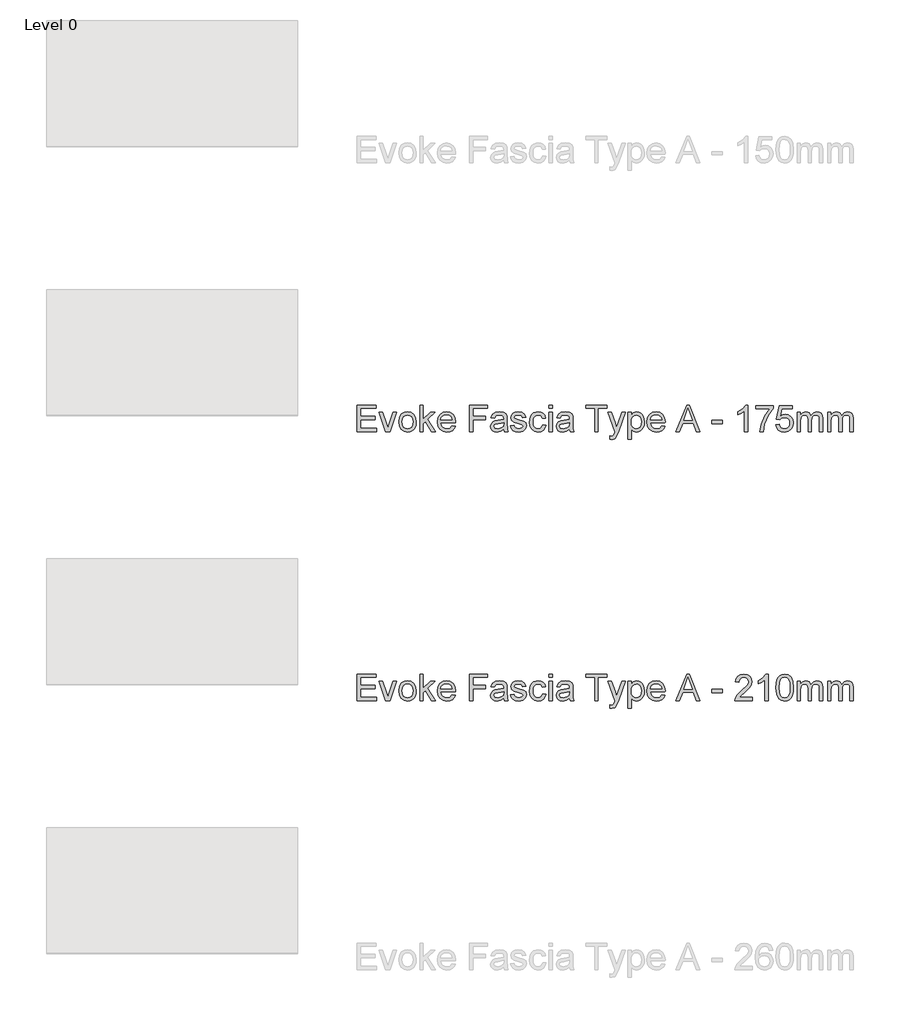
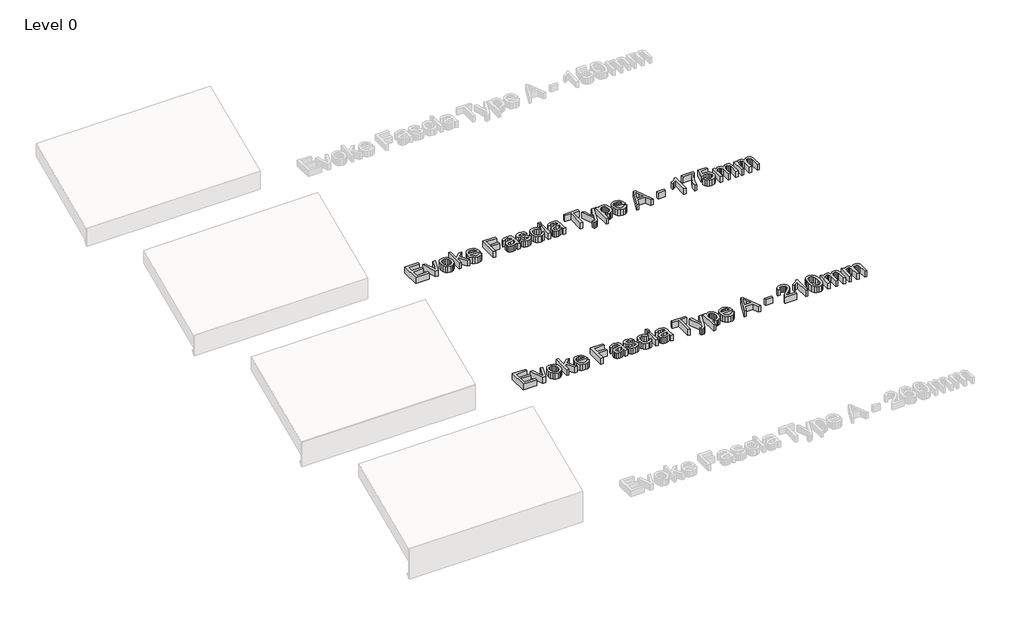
# One storey, part 6 of 13: 2 proxies.
"""IFC4 building model written with IfcOpenShell, lengths in millimetres."""

from ifc_helpers import new_model, si_unit, origin, origin_with_axes, place, context, project, spatial, polyline, outline, extrude, element, save

model = new_model("IFC4")

# Units and contexts
model_context = context("Model", 3, world=origin())
ifc_project = project(units=[si_unit("LENGTHUNIT", "METRE", prefix="MILLI")], contexts=[model_context])

# Site, building, storey
site = spatial("IfcSite", under=ifc_project)
building = spatial("IfcBuilding", under=site)
storey = spatial("IfcBuildingStorey", under=building, Name="Level 0", Elevation=0.0)

# Proxies
placement = place(None, origin())
element("IfcBuildingElementProxy", 1, Name="150mm Arial", ObjectType="150mm Arial", at=placement, inside=storey, context=model_context, shape_type="SweptSolid", body=[
    extrude(outline(polyline([(-1431.2798957, 5860.6682311), (-1431.2798957, 6008.3605388), (-1325.1260496, 6008.3605388), (-1325.1260496, 5989.8990003), (-1412.8183573, 5989.8990003), (-1412.8183573, 5946.0528465), (-1329.7414342, 5946.0528465), (-1329.7414342, 5927.591308), (-1412.8183573, 5927.591308), (-1412.8183573, 5879.1297695), (-1322.8183573, 5879.1297695), (-1322.8183573, 5860.6682311), (-1431.2798957, 5860.6682311)])), origin_with_axes(), (0.0, 0.0, 1.0), 50.0),
    extrude(outline(polyline([(-1270.823165, 5860.6682311), (-1308.9722034, 5969.1297695), (-1289.4289342, 5969.1297695), (-1266.3159534, 5904.153808), (-1259.3568188, 5882.3028465), (-1252.541915, 5902.9278465), (-1229.2847034, 5969.1297695), (-1209.7414342, 5969.1297695), (-1247.4217226, 5860.6682311), (-1270.823165, 5860.6682311)])), origin_with_axes(), (0.0, 0.0, 1.0), 50.0),
    extrude(outline(polyline([(-1198.2029726, 5914.8990003), (-1194.2095832, 5941.0498416), (-1182.229415, 5959.4302503), (-1167.4277323, 5968.435659), (-1149.7053765, 5971.4374618), (-1130.3108452, 5967.7821133), (-1114.8195592, 5956.8160676), (-1104.6648116, 5939.4047094), (-1101.2798957, 5916.4134234), (-1102.77629, 5897.762582), (-1107.2654726, 5883.5648657), (-1114.6167347, 5872.9323537), (-1124.6993669, 5864.9771253), (-1136.6750279, 5860.0146854), (-1149.7053765, 5858.3605388), (-1169.3342827, 5862.0023657), (-1184.80754, 5872.9278465), (-1194.8541145, 5890.7042888), (-1198.2029726, 5914.8990003)]), holes=[polyline([(-1179.7414342, 5914.935058), (-1177.6050159, 5898.2268248), (-1171.1957611, 5886.3232791), (-1161.5503284, 5879.1973777), (-1149.7053765, 5876.8220772), (-1137.9145111, 5879.2108993), (-1128.2871073, 5886.3773657), (-1121.8778525, 5898.4386638), (-1119.7414342, 5915.5119811), (-1121.8913741, 5931.7334354), (-1128.3411938, 5943.4747215), (-1137.9821193, 5950.6006229), (-1149.7053765, 5952.9759234), (-1161.5503284, 5950.6096373), (-1171.1957611, 5943.5107791), (-1177.6050159, 5931.6342767), (-1179.7414342, 5914.935058)])]), origin_with_axes(), (0.0, 0.0, 1.0), 50.0),
    extrude(outline(polyline([(-1080.510665, 5860.6682311), (-1080.510665, 6008.3605388), (-1062.0491265, 6008.3605388), (-1062.0491265, 5928.997558), (-1020.6548957, 5969.1297695), (-995.1260496, 5969.1297695), (-1037.025088, 5928.4927503), (-992.8183573, 5860.6682311), (-1014.3808573, 5860.6682311), (-1050.2582611, 5915.6562118), (-1062.0491265, 5904.2259234), (-1062.0491265, 5860.6682311), (-1080.510665, 5860.6682311)])), origin_with_axes(), (0.0, 0.0, 1.0), 50.0),
    extrude(outline(polyline([(-900.7270111, 5892.9759234), (-882.6260496, 5890.6682311), (-889.1479847, 5877.029409), (-899.5551361, 5866.8340965), (-913.6131289, 5860.4789282), (-931.087588, 5858.3605388), (-952.7492467, 5862.0158873), (-969.416915, 5872.981933), (-980.0449198, 5890.5465364), (-983.587588, 5913.997558), (-980.0088621, 5938.2373416), (-969.2726842, 5956.3653465), (-952.8303765, 5967.669433), (-932.1332611, 5971.4374618), (-912.080677, 5967.6784474), (-896.05754, 5956.4014041), (-885.5512299, 5938.309457), (-882.0491265, 5914.1057311), (-882.1572996, 5909.1297695), (-965.1260496, 5909.1297695), (-961.9304366, 5895.310659), (-954.5070592, 5885.1514041), (-943.7934174, 5878.904409), (-930.7270111, 5876.8220772), (-912.6260496, 5880.6802503), (-900.7270111, 5892.9759234)]), holes=[polyline([(-965.1260496, 5927.591308), (-900.510665, 5927.591308), (-903.0076601, 5937.3449138), (-907.9024919, 5944.3220772), (-918.665713, 5950.8124618), (-932.2053765, 5952.9759234), (-944.6497876, 5951.2496614), (-954.9397515, 5946.0708753), (-962.0926962, 5937.9984594), (-965.1260496, 5927.591308)])]), origin_with_axes(), (0.0, 0.0, 1.0), 50.0),
    extrude(outline(polyline([(-803.587588, 5860.6682311), (-803.587588, 6008.3605388), (-704.3568188, 6008.3605388), (-704.3568188, 5989.8990003), (-785.1260496, 5989.8990003), (-785.1260496, 5946.0528465), (-715.8952803, 5946.0528465), (-715.8952803, 5927.591308), (-785.1260496, 5927.591308), (-785.1260496, 5860.6682311), (-803.587588, 5860.6682311)])), origin_with_axes(), (0.0, 0.0, 1.0), 50.0),
    extrude(outline(polyline([(-612.0491265, 5874.5143849), (-629.9517707, 5862.0023657), (-649.729415, 5858.3605388), (-665.1576001, 5860.5510436), (-676.5383092, 5867.122558), (-683.5560376, 5877.1015243), (-685.8952803, 5889.5143849), (-682.3616265, 5904.1177503), (-673.0767707, 5914.7187118), (-660.150088, 5920.7764041), (-644.1765303, 5923.5528465), (-612.1572996, 5929.8990003), (-612.0491265, 5934.0095772), (-613.3201601, 5942.2487599), (-617.1332611, 5947.6393849), (-625.6609053, 5951.6417888), (-637.541915, 5952.9759234), (-656.2197996, 5949.4242407), (-665.1260496, 5936.8220772), (-683.587588, 5939.1297695), (-675.6008092, 5957.1586157), (-659.5190784, 5967.7235195), (-635.1621073, 5971.4374618), (-612.7883092, 5968.1562118), (-600.150088, 5959.9170291), (-594.4890303, 5947.3869811), (-593.587588, 5931.2331349), (-593.587588, 5908.2643849), (-592.650088, 5876.1910676), (-588.9722034, 5860.6682311), (-607.4337419, 5860.6682311), (-612.0491265, 5874.5143849)]), holes=[polyline([(-612.0491265, 5911.4374618), (-641.8327803, 5905.7764041), (-657.7161938, 5902.7836157), (-664.9097034, 5897.9158272), (-667.4337419, 5890.8124618), (-661.9349438, 5880.8244811), (-645.7991265, 5876.8220772), (-627.1212419, 5881.2391445), (-615.0779726, 5891.9302503), (-612.1572996, 5906.2090965), (-612.0491265, 5911.4374618)])]), origin_with_axes(), (0.0, 0.0, 1.0), 50.0),
    extrude(outline(polyline([(-575.1260496, 5892.9759234), (-556.6645111, 5895.2836157), (-553.7528525, 5887.3869811), (-548.118838, 5881.5816926), (-528.5395111, 5876.8220772), (-509.7173957, 5881.185058), (-503.587588, 5891.4254426), (-509.7534534, 5899.7187118), (-528.7558573, 5904.9831349), (-556.556338, 5914.0155868), (-568.6897515, 5924.5624618), (-572.8183573, 5939.4542888), (-569.5010496, 5953.2102984), (-560.4505688, 5963.7211157), (-548.71379, 5969.1838561), (-532.8303765, 5971.4374618), (-510.3664342, 5967.8136638), (-496.087588, 5958.0059715), (-489.7414342, 5941.4374618), (-508.2029726, 5939.1297695), (-515.1440784, 5949.3160676), (-531.3880688, 5952.9759234), (-549.056338, 5949.4783272), (-554.3568188, 5941.3292888), (-552.1572996, 5935.9566926), (-545.2702803, 5931.8821734), (-529.368838, 5927.9518849), (-502.2714823, 5919.2619811), (-489.6873476, 5909.4182311), (-485.1260496, 5893.372558), (-490.4806169, 5875.7042888), (-505.931338, 5862.8857791), (-528.791915, 5858.3605388), (-547.4066986, 5860.5420291), (-560.9914342, 5867.0865003), (-570.0599438, 5877.9218368), (-575.1260496, 5892.9759234)])), origin_with_axes(), (0.0, 0.0, 1.0), 50.0),
    extrude(outline(polyline([(-395.1260496, 5899.8990003), (-376.6645111, 5897.591308), (-381.8117467, 5881.1715364), (-391.4842226, 5868.763183), (-404.7714823, 5860.9611998), (-420.7630688, 5858.3605388), (-440.4009895, 5861.9888441), (-455.7570592, 5872.8737599), (-465.6684174, 5890.5375219), (-468.9722034, 5914.5023657), (-463.3291746, 5945.169433), (-456.2077803, 5956.6673296), (-446.1296553, 5964.8749618), (-434.0728645, 5969.7968368), (-421.0154726, 5971.4374618), (-405.4160135, 5969.1838561), (-392.9445592, 5962.4230388), (-383.9977443, 5951.5155868), (-378.9722034, 5936.8220772), (-397.4337419, 5934.5143849), (-405.9974438, 5948.3425099), (-420.8712419, 5952.9759234), (-432.8018308, 5950.6952743), (-442.2714823, 5943.8533272), (-448.4508693, 5932.0804907), (-450.510665, 5915.0071734), (-448.4959414, 5897.7039883), (-442.4517707, 5885.8905868), (-433.1533933, 5879.0892046), (-421.3760496, 5876.8220772), (-411.8162539, 5878.2373416), (-403.978213, 5882.4831349), (-398.2765904, 5889.6676301), (-395.1260496, 5899.8990003)])), origin_with_axes(), (0.0, 0.0, 1.0), 50.0),
    extrude(outline(polyline([(-360.510665, 5989.8990003), (-360.510665, 6008.3605388), (-342.0491265, 6008.3605388), (-342.0491265, 5989.8990003), (-360.510665, 5989.8990003)])), origin_with_axes(), (0.0, 0.0, 1.0), 50.0),
    extrude(outline(polyline([(-360.510665, 5860.6682311), (-360.510665, 5969.1297695), (-342.0491265, 5969.1297695), (-342.0491265, 5860.6682311), (-360.510665, 5860.6682311)])), origin_with_axes(), (0.0, 0.0, 1.0), 50.0),
    extrude(outline(polyline([(-245.1260496, 5874.5143849), (-263.0286938, 5862.0023657), (-282.806338, 5858.3605388), (-298.2345231, 5860.5510436), (-309.6152323, 5867.122558), (-316.6329606, 5877.1015243), (-318.9722034, 5889.5143849), (-315.4385496, 5904.1177503), (-306.1536938, 5914.7187118), (-293.2270111, 5920.7764041), (-277.2534534, 5923.5528465), (-245.2342226, 5929.8990003), (-245.1260496, 5934.0095772), (-246.3970832, 5942.2487599), (-250.2101842, 5947.6393849), (-258.7378284, 5951.6417888), (-270.618838, 5952.9759234), (-289.2967226, 5949.4242407), (-298.2029726, 5936.8220772), (-316.6645111, 5939.1297695), (-308.6777323, 5957.1586157), (-292.5960015, 5967.7235195), (-268.2390303, 5971.4374618), (-245.8652323, 5968.1562118), (-233.2270111, 5959.9170291), (-227.5659534, 5947.3869811), (-226.6645111, 5931.2331349), (-226.6645111, 5908.2643849), (-225.7270111, 5876.1910676), (-222.0491265, 5860.6682311), (-240.510665, 5860.6682311), (-245.1260496, 5874.5143849)]), holes=[polyline([(-245.1260496, 5911.4374618), (-274.9097034, 5905.7764041), (-290.7931169, 5902.7836157), (-297.9866265, 5897.9158272), (-300.510665, 5890.8124618), (-295.0118669, 5880.8244811), (-278.8760496, 5876.8220772), (-260.198165, 5881.2391445), (-248.1548957, 5891.9302503), (-245.2342226, 5906.2090965), (-245.1260496, 5911.4374618)])]), origin_with_axes(), (0.0, 0.0, 1.0), 50.0),
    extrude(outline(polyline([(-104.3568188, 5860.6682311), (-104.3568188, 5989.8990003), (-152.8183573, 5989.8990003), (-152.8183573, 6008.3605388), (-37.4337419, 6008.3605388), (-37.4337419, 5989.8990003), (-85.8952803, 5989.8990003), (-85.8952803, 5860.6682311), (-104.3568188, 5860.6682311)])), origin_with_axes(), (0.0, 0.0, 1.0), 50.0),
    extrude(outline(polyline([(-18.9722034, 5819.1297695), (-21.2798957, 5836.9062118), (-11.9048957, 5835.2836157), (-3.1428765, 5837.3208753), (2.2297197, 5842.9999618), (7.2777966, 5856.5937118), (8.7201043, 5861.0648657), (-30.510665, 5969.1297695), (-11.0395111, 5969.1297695), (9.7657774, 5908.9134234), (17.0133735, 5884.8268849), (24.2609697, 5906.1009234), (45.6431812, 5969.1297695), (64.9701043, 5969.1297695), (27.2177004, 5858.0720772), (17.4100081, 5833.9855388), (6.7008735, 5820.9687118), (-7.6861457, 5816.8220772), (-18.9722034, 5819.1297695)])), origin_with_axes(), (0.0, 0.0, 1.0), 50.0),
    extrude(outline(polyline([(80.2585658, 5819.1297695), (80.2585658, 5969.1297695), (98.7201043, 5969.1297695), (98.7201043, 5951.028808), (111.4845274, 5966.3352984), (128.7201043, 5971.4374618), (141.2050802, 5969.6526061), (152.1215466, 5964.2980388), (161.0097677, 5955.6982791), (167.4100081, 5944.1778465), (172.5662581, 5915.7283272), (171.1104288, 5899.9395652), (166.7429408, 5885.8184715), (159.6035177, 5874.0816926), (149.8318831, 5865.4458753), (138.451174, 5860.1318729), (126.4845274, 5858.3605388), (110.4208254, 5863.1021253), (98.7201043, 5875.091308), (98.7201043, 5819.1297695), (80.2585658, 5819.1297695)]), holes=[polyline([(98.7201043, 5914.0336157), (100.716799, 5897.4831349), (106.7068831, 5885.9086157), (115.5455249, 5879.0937118), (126.0878927, 5876.8220772), (136.8015346, 5879.1748416), (145.865537, 5886.2331349), (152.044924, 5898.231332), (154.1047197, 5915.403808), (152.0945033, 5931.8641445), (146.0638543, 5943.6009234), (137.2387341, 5950.6321734), (126.8451043, 5952.9759234), (116.4109096, 5950.4834354), (107.2477485, 5943.0059715), (100.8520153, 5930.7779066), (98.7201043, 5914.0336157)])]), origin_with_axes(), (0.0, 0.0, 1.0), 50.0),
    extrude(outline(polyline([(269.2729889, 5892.9759234), (287.3739504, 5890.6682311), (280.8520153, 5877.029409), (270.4448639, 5866.8340965), (256.3868711, 5860.4789282), (238.912412, 5858.3605388), (217.2507533, 5862.0158873), (200.583085, 5872.981933), (189.9550802, 5890.5465364), (186.412412, 5913.997558), (189.9911379, 5938.2373416), (200.7273158, 5956.3653465), (217.1696235, 5967.669433), (237.8667389, 5971.4374618), (257.919323, 5967.6784474), (273.94246, 5956.4014041), (284.4487701, 5938.309457), (287.9508735, 5914.1057311), (287.8427004, 5909.1297695), (204.8739504, 5909.1297695), (208.0695634, 5895.310659), (215.4929408, 5885.1514041), (226.2065826, 5878.904409), (239.2729889, 5876.8220772), (257.3739504, 5880.6802503), (269.2729889, 5892.9759234)]), holes=[polyline([(204.8739504, 5927.591308), (269.489335, 5927.591308), (266.9923399, 5937.3449138), (262.0975081, 5944.3220772), (251.334287, 5950.8124618), (237.7946235, 5952.9759234), (225.3502124, 5951.2496614), (215.0602485, 5946.0708753), (207.9073038, 5937.9984594), (204.8739504, 5927.591308)])]), origin_with_axes(), (0.0, 0.0, 1.0), 50.0),
    extrude(outline(polyline([(349.2128927, 5860.6682311), (408.1672197, 6008.3605388), (423.8883735, 6008.3605388), (482.8427004, 5860.6682311), (463.3354889, 5860.6682311), (446.4244312, 5906.8220772), (385.5951043, 5906.8220772), (368.7201043, 5860.6682311), (349.2128927, 5860.6682311)]), holes=[polyline([(392.3739504, 5925.2836157), (439.6816427, 5925.2836157), (426.3763543, 5961.5937118), (416.0277966, 5989.8990003), (406.833085, 5964.7667888), (392.3739504, 5925.2836157)])]), origin_with_axes(), (0.0, 0.0, 1.0), 50.0),
    extrude(outline(polyline([(548.7201043, 5904.5143849), (548.7201043, 5922.9759234), (606.412412, 5922.9759234), (606.412412, 5904.5143849), (548.7201043, 5904.5143849)])), origin_with_axes(), (0.0, 0.0, 1.0), 50.0),
    extrude(outline(polyline([(749.489335, 5860.6682311), (731.0277966, 5860.6682311), (731.0277966, 5975.7643849), (713.5398158, 5963.3064522), (694.1047197, 5953.9855388), (694.1047197, 5971.4374618), (721.1660177, 5988.7090965), (737.5902966, 6008.3605388), (749.489335, 6008.3605388), (749.489335, 5860.6682311)])), origin_with_axes(), (0.0, 0.0, 1.0), 50.0),
    extrude(outline(polyline([(793.3354889, 5987.591308), (793.3354889, 6006.0528465), (890.2585658, 6006.0528465), (890.2585658, 5991.1249618), (862.7645754, 5951.4074138), (841.724912, 5900.8004426), (834.8739504, 5860.6682311), (816.412412, 5860.6682311), (823.7501524, 5902.3148657), (843.8883735, 5949.388183), (871.7970274, 5987.591308), (793.3354889, 5987.591308)])), origin_with_axes(), (0.0, 0.0, 1.0), 50.0),
    extrude(outline(polyline([(906.412412, 5899.8990003), (924.8739504, 5902.2066926), (928.2633735, 5891.1234594), (934.176835, 5883.1862599), (942.5872918, 5878.4131229), (953.4677004, 5876.8220772), (966.7008735, 5879.0351181), (976.6167389, 5885.6742407), (982.8096475, 5895.9732191), (984.8739504, 5909.1658272), (982.9403567, 5921.5877022), (977.1395754, 5931.0889041), (967.4265346, 5937.1195532), (953.756162, 5939.1297695), (937.5482293, 5935.9206349), (927.1816427, 5927.591308), (908.7201043, 5929.8990003), (924.8739504, 6006.0528465), (996.412412, 6006.0528465), (996.412412, 5987.591308), (939.801835, 5987.591308), (931.9052004, 5946.9182311), (945.0933014, 5954.9230388), (958.912412, 5957.591308), (976.1615105, 5954.2830147), (990.4809216, 5944.3581349), (1000.1218471, 5929.231933), (1003.3354889, 5910.3196734), (1000.4418591, 5891.8581349), (991.7609697, 5876.0648657), (975.1383735, 5862.7866205), (953.395585, 5858.3605388), (935.263073, 5861.2045892), (920.81746, 5869.7367407), (910.9151163, 5882.9654066), (906.412412, 5899.8990003)])), origin_with_axes(), (0.0, 0.0, 1.0), 50.0),
    extrude(outline(polyline([(1024.1047197, 5860.6682311), (1024.1047197, 5969.1297695), (1042.5662581, 5969.1297695), (1042.5662581, 5951.2812118), (1055.2585658, 5965.9026061), (1073.3234697, 5971.4374618), (1083.5908975, 5970.0267046), (1091.8210658, 5965.794433), (1101.989335, 5949.9831349), (1116.3943831, 5966.0738801), (1134.5854889, 5971.4374618), (1148.4631932, 5969.2063921), (1158.7261139, 5962.513183), (1165.0677605, 5951.177546), (1167.1816427, 5935.0191926), (1167.1816427, 5860.6682311), (1148.7201043, 5860.6682311), (1148.7201043, 5927.0865003), (1147.0073639, 5942.5011638), (1140.8054408, 5950.091308), (1130.2585658, 5952.9759234), (1120.2570634, 5951.1279666), (1112.1035177, 5945.5840965), (1106.6813423, 5935.965707), (1104.8739504, 5921.8941926), (1104.8739504, 5860.6682311), (1086.412412, 5860.6682311), (1086.412412, 5929.1417888), (1082.1395754, 5947.0264041), (1076.5010538, 5951.4885436), (1068.131162, 5952.9759234), (1054.4652966, 5949.0095772), (1045.3787581, 5937.3990003), (1042.5662581, 5915.3677503), (1042.5662581, 5860.6682311), (1024.1047197, 5860.6682311)])), origin_with_axes(), (0.0, 0.0, 1.0), 50.0),
    extrude(outline(polyline([(1194.8739504, 5860.6682311), (1194.8739504, 5969.1297695), (1213.3354889, 5969.1297695), (1213.3354889, 5951.2812118), (1226.0277966, 5965.9026061), (1244.0927004, 5971.4374618), (1254.3601283, 5970.0267046), (1262.5902966, 5965.794433), (1272.7585658, 5949.9831349), (1287.1636139, 5966.0738801), (1305.3547197, 5971.4374618), (1319.232424, 5969.2063921), (1329.4953447, 5962.513183), (1335.8369913, 5951.177546), (1337.9508735, 5935.0191926), (1337.9508735, 5860.6682311), (1319.489335, 5860.6682311), (1319.489335, 5927.0865003), (1317.7765947, 5942.5011638), (1311.5746716, 5950.091308), (1301.0277966, 5952.9759234), (1291.0262942, 5951.1279666), (1282.8727485, 5945.5840965), (1277.450573, 5935.965707), (1275.6431812, 5921.8941926), (1275.6431812, 5860.6682311), (1257.1816427, 5860.6682311), (1257.1816427, 5929.1417888), (1252.9088062, 5947.0264041), (1247.2702846, 5951.4885436), (1238.9003927, 5952.9759234), (1225.2345274, 5949.0095772), (1216.1479889, 5937.3990003), (1213.3354889, 5915.3677503), (1213.3354889, 5860.6682311), (1194.8739504, 5860.6682311)])), origin_with_axes(), (0.0, 0.0, 1.0), 50.0),
])
element("IfcBuildingElementProxy", 2, Name="150mm Arial", ObjectType="150mm Arial", at=placement, inside=storey, context=model_context, shape_type="SweptSolid", body=[
    extrude(outline(polyline([(-1431.2798957, 4360.6682311), (-1431.2798957, 4508.3605388), (-1325.1260496, 4508.3605388), (-1325.1260496, 4489.8990003), (-1412.8183573, 4489.8990003), (-1412.8183573, 4446.0528465), (-1329.7414342, 4446.0528465), (-1329.7414342, 4427.591308), (-1412.8183573, 4427.591308), (-1412.8183573, 4379.1297695), (-1322.8183573, 4379.1297695), (-1322.8183573, 4360.6682311), (-1431.2798957, 4360.6682311)])), origin_with_axes(), (0.0, 0.0, 1.0), 50.0),
    extrude(outline(polyline([(-1270.823165, 4360.6682311), (-1308.9722034, 4469.1297695), (-1289.4289342, 4469.1297695), (-1266.3159534, 4404.153808), (-1259.3568188, 4382.3028465), (-1252.541915, 4402.9278465), (-1229.2847034, 4469.1297695), (-1209.7414342, 4469.1297695), (-1247.4217226, 4360.6682311), (-1270.823165, 4360.6682311)])), origin_with_axes(), (0.0, 0.0, 1.0), 50.0),
    extrude(outline(polyline([(-1198.2029726, 4414.8990003), (-1194.2095832, 4441.0498416), (-1182.229415, 4459.4302503), (-1167.4277323, 4468.435659), (-1149.7053765, 4471.4374618), (-1130.3108452, 4467.7821133), (-1114.8195592, 4456.8160676), (-1104.6648116, 4439.4047094), (-1101.2798957, 4416.4134234), (-1102.77629, 4397.762582), (-1107.2654726, 4383.5648657), (-1114.6167347, 4372.9323537), (-1124.6993669, 4364.9771253), (-1136.6750279, 4360.0146854), (-1149.7053765, 4358.3605388), (-1169.3342827, 4362.0023657), (-1184.80754, 4372.9278465), (-1194.8541145, 4390.7042888), (-1198.2029726, 4414.8990003)]), holes=[polyline([(-1179.7414342, 4414.935058), (-1177.6050159, 4398.2268248), (-1171.1957611, 4386.3232791), (-1161.5503284, 4379.1973777), (-1149.7053765, 4376.8220772), (-1137.9145111, 4379.2108993), (-1128.2871073, 4386.3773657), (-1121.8778525, 4398.4386638), (-1119.7414342, 4415.5119811), (-1121.8913741, 4431.7334354), (-1128.3411938, 4443.4747215), (-1137.9821193, 4450.6006229), (-1149.7053765, 4452.9759234), (-1161.5503284, 4450.6096373), (-1171.1957611, 4443.5107791), (-1177.6050159, 4431.6342767), (-1179.7414342, 4414.935058)])]), origin_with_axes(), (0.0, 0.0, 1.0), 50.0),
    extrude(outline(polyline([(-1080.510665, 4360.6682311), (-1080.510665, 4508.3605388), (-1062.0491265, 4508.3605388), (-1062.0491265, 4428.997558), (-1020.6548957, 4469.1297695), (-995.1260496, 4469.1297695), (-1037.025088, 4428.4927503), (-992.8183573, 4360.6682311), (-1014.3808573, 4360.6682311), (-1050.2582611, 4415.6562118), (-1062.0491265, 4404.2259234), (-1062.0491265, 4360.6682311), (-1080.510665, 4360.6682311)])), origin_with_axes(), (0.0, 0.0, 1.0), 50.0),
    extrude(outline(polyline([(-900.7270111, 4392.9759234), (-882.6260496, 4390.6682311), (-889.1479847, 4377.029409), (-899.5551361, 4366.8340965), (-913.6131289, 4360.4789282), (-931.087588, 4358.3605388), (-952.7492467, 4362.0158873), (-969.416915, 4372.981933), (-980.0449198, 4390.5465364), (-983.587588, 4413.997558), (-980.0088621, 4438.2373416), (-969.2726842, 4456.3653465), (-952.8303765, 4467.669433), (-932.1332611, 4471.4374618), (-912.080677, 4467.6784474), (-896.05754, 4456.4014041), (-885.5512299, 4438.309457), (-882.0491265, 4414.1057311), (-882.1572996, 4409.1297695), (-965.1260496, 4409.1297695), (-961.9304366, 4395.310659), (-954.5070592, 4385.1514041), (-943.7934174, 4378.904409), (-930.7270111, 4376.8220772), (-912.6260496, 4380.6802503), (-900.7270111, 4392.9759234)]), holes=[polyline([(-965.1260496, 4427.591308), (-900.510665, 4427.591308), (-903.0076601, 4437.3449138), (-907.9024919, 4444.3220772), (-918.665713, 4450.8124618), (-932.2053765, 4452.9759234), (-944.6497876, 4451.2496614), (-954.9397515, 4446.0708753), (-962.0926962, 4437.9984594), (-965.1260496, 4427.591308)])]), origin_with_axes(), (0.0, 0.0, 1.0), 50.0),
    extrude(outline(polyline([(-803.587588, 4360.6682311), (-803.587588, 4508.3605388), (-704.3568188, 4508.3605388), (-704.3568188, 4489.8990003), (-785.1260496, 4489.8990003), (-785.1260496, 4446.0528465), (-715.8952803, 4446.0528465), (-715.8952803, 4427.591308), (-785.1260496, 4427.591308), (-785.1260496, 4360.6682311), (-803.587588, 4360.6682311)])), origin_with_axes(), (0.0, 0.0, 1.0), 50.0),
    extrude(outline(polyline([(-612.0491265, 4374.5143849), (-629.9517707, 4362.0023657), (-649.729415, 4358.3605388), (-665.1576001, 4360.5510436), (-676.5383092, 4367.122558), (-683.5560376, 4377.1015243), (-685.8952803, 4389.5143849), (-682.3616265, 4404.1177503), (-673.0767707, 4414.7187118), (-660.150088, 4420.7764041), (-644.1765303, 4423.5528465), (-612.1572996, 4429.8990003), (-612.0491265, 4434.0095772), (-613.3201601, 4442.2487599), (-617.1332611, 4447.6393849), (-625.6609053, 4451.6417888), (-637.541915, 4452.9759234), (-656.2197996, 4449.4242407), (-665.1260496, 4436.8220772), (-683.587588, 4439.1297695), (-675.6008092, 4457.1586157), (-659.5190784, 4467.7235195), (-635.1621073, 4471.4374618), (-612.7883092, 4468.1562118), (-600.150088, 4459.9170291), (-594.4890303, 4447.3869811), (-593.587588, 4431.2331349), (-593.587588, 4408.2643849), (-592.650088, 4376.1910676), (-588.9722034, 4360.6682311), (-607.4337419, 4360.6682311), (-612.0491265, 4374.5143849)]), holes=[polyline([(-612.0491265, 4411.4374618), (-641.8327803, 4405.7764041), (-657.7161938, 4402.7836157), (-664.9097034, 4397.9158272), (-667.4337419, 4390.8124618), (-661.9349438, 4380.8244811), (-645.7991265, 4376.8220772), (-627.1212419, 4381.2391445), (-615.0779726, 4391.9302503), (-612.1572996, 4406.2090965), (-612.0491265, 4411.4374618)])]), origin_with_axes(), (0.0, 0.0, 1.0), 50.0),
    extrude(outline(polyline([(-575.1260496, 4392.9759234), (-556.6645111, 4395.2836157), (-553.7528525, 4387.3869811), (-548.118838, 4381.5816926), (-528.5395111, 4376.8220772), (-509.7173957, 4381.185058), (-503.587588, 4391.4254426), (-509.7534534, 4399.7187118), (-528.7558573, 4404.9831349), (-556.556338, 4414.0155868), (-568.6897515, 4424.5624618), (-572.8183573, 4439.4542888), (-569.5010496, 4453.2102984), (-560.4505688, 4463.7211157), (-548.71379, 4469.1838561), (-532.8303765, 4471.4374618), (-510.3664342, 4467.8136638), (-496.087588, 4458.0059715), (-489.7414342, 4441.4374618), (-508.2029726, 4439.1297695), (-515.1440784, 4449.3160676), (-531.3880688, 4452.9759234), (-549.056338, 4449.4783272), (-554.3568188, 4441.3292888), (-552.1572996, 4435.9566926), (-545.2702803, 4431.8821734), (-529.368838, 4427.9518849), (-502.2714823, 4419.2619811), (-489.6873476, 4409.4182311), (-485.1260496, 4393.372558), (-490.4806169, 4375.7042888), (-505.931338, 4362.8857791), (-528.791915, 4358.3605388), (-547.4066986, 4360.5420291), (-560.9914342, 4367.0865003), (-570.0599438, 4377.9218368), (-575.1260496, 4392.9759234)])), origin_with_axes(), (0.0, 0.0, 1.0), 50.0),
    extrude(outline(polyline([(-395.1260496, 4399.8990003), (-376.6645111, 4397.591308), (-381.8117467, 4381.1715364), (-391.4842226, 4368.763183), (-404.7714823, 4360.9611998), (-420.7630688, 4358.3605388), (-440.4009895, 4361.9888441), (-455.7570592, 4372.8737599), (-465.6684174, 4390.5375219), (-468.9722034, 4414.5023657), (-463.3291746, 4445.169433), (-456.2077803, 4456.6673296), (-446.1296553, 4464.8749618), (-434.0728645, 4469.7968368), (-421.0154726, 4471.4374618), (-405.4160135, 4469.1838561), (-392.9445592, 4462.4230388), (-383.9977443, 4451.5155868), (-378.9722034, 4436.8220772), (-397.4337419, 4434.5143849), (-405.9974438, 4448.3425099), (-420.8712419, 4452.9759234), (-432.8018308, 4450.6952743), (-442.2714823, 4443.8533272), (-448.4508693, 4432.0804907), (-450.510665, 4415.0071734), (-448.4959414, 4397.7039883), (-442.4517707, 4385.8905868), (-433.1533933, 4379.0892046), (-421.3760496, 4376.8220772), (-411.8162539, 4378.2373416), (-403.978213, 4382.4831349), (-398.2765904, 4389.6676301), (-395.1260496, 4399.8990003)])), origin_with_axes(), (0.0, 0.0, 1.0), 50.0),
    extrude(outline(polyline([(-360.510665, 4489.8990003), (-360.510665, 4508.3605388), (-342.0491265, 4508.3605388), (-342.0491265, 4489.8990003), (-360.510665, 4489.8990003)])), origin_with_axes(), (0.0, 0.0, 1.0), 50.0),
    extrude(outline(polyline([(-360.510665, 4360.6682311), (-360.510665, 4469.1297695), (-342.0491265, 4469.1297695), (-342.0491265, 4360.6682311), (-360.510665, 4360.6682311)])), origin_with_axes(), (0.0, 0.0, 1.0), 50.0),
    extrude(outline(polyline([(-245.1260496, 4374.5143849), (-263.0286938, 4362.0023657), (-282.806338, 4358.3605388), (-298.2345231, 4360.5510436), (-309.6152323, 4367.122558), (-316.6329606, 4377.1015243), (-318.9722034, 4389.5143849), (-315.4385496, 4404.1177503), (-306.1536938, 4414.7187118), (-293.2270111, 4420.7764041), (-277.2534534, 4423.5528465), (-245.2342226, 4429.8990003), (-245.1260496, 4434.0095772), (-246.3970832, 4442.2487599), (-250.2101842, 4447.6393849), (-258.7378284, 4451.6417888), (-270.618838, 4452.9759234), (-289.2967226, 4449.4242407), (-298.2029726, 4436.8220772), (-316.6645111, 4439.1297695), (-308.6777323, 4457.1586157), (-292.5960015, 4467.7235195), (-268.2390303, 4471.4374618), (-245.8652323, 4468.1562118), (-233.2270111, 4459.9170291), (-227.5659534, 4447.3869811), (-226.6645111, 4431.2331349), (-226.6645111, 4408.2643849), (-225.7270111, 4376.1910676), (-222.0491265, 4360.6682311), (-240.510665, 4360.6682311), (-245.1260496, 4374.5143849)]), holes=[polyline([(-245.1260496, 4411.4374618), (-274.9097034, 4405.7764041), (-290.7931169, 4402.7836157), (-297.9866265, 4397.9158272), (-300.510665, 4390.8124618), (-295.0118669, 4380.8244811), (-278.8760496, 4376.8220772), (-260.198165, 4381.2391445), (-248.1548957, 4391.9302503), (-245.2342226, 4406.2090965), (-245.1260496, 4411.4374618)])]), origin_with_axes(), (0.0, 0.0, 1.0), 50.0),
    extrude(outline(polyline([(-104.3568188, 4360.6682311), (-104.3568188, 4489.8990003), (-152.8183573, 4489.8990003), (-152.8183573, 4508.3605388), (-37.4337419, 4508.3605388), (-37.4337419, 4489.8990003), (-85.8952803, 4489.8990003), (-85.8952803, 4360.6682311), (-104.3568188, 4360.6682311)])), origin_with_axes(), (0.0, 0.0, 1.0), 50.0),
    extrude(outline(polyline([(-18.9722034, 4319.1297695), (-21.2798957, 4336.9062118), (-11.9048957, 4335.2836157), (-3.1428765, 4337.3208753), (2.2297197, 4342.9999618), (7.2777966, 4356.5937118), (8.7201043, 4361.0648657), (-30.510665, 4469.1297695), (-11.0395111, 4469.1297695), (9.7657774, 4408.9134234), (17.0133735, 4384.8268849), (24.2609697, 4406.1009234), (45.6431812, 4469.1297695), (64.9701043, 4469.1297695), (27.2177004, 4358.0720772), (17.4100081, 4333.9855388), (6.7008735, 4320.9687118), (-7.6861457, 4316.8220772), (-18.9722034, 4319.1297695)])), origin_with_axes(), (0.0, 0.0, 1.0), 50.0),
    extrude(outline(polyline([(80.2585658, 4319.1297695), (80.2585658, 4469.1297695), (98.7201043, 4469.1297695), (98.7201043, 4451.028808), (111.4845274, 4466.3352984), (128.7201043, 4471.4374618), (141.2050802, 4469.6526061), (152.1215466, 4464.2980388), (161.0097677, 4455.6982791), (167.4100081, 4444.1778465), (172.5662581, 4415.7283272), (171.1104288, 4399.9395652), (166.7429408, 4385.8184715), (159.6035177, 4374.0816926), (149.8318831, 4365.4458753), (138.451174, 4360.1318729), (126.4845274, 4358.3605388), (110.4208254, 4363.1021253), (98.7201043, 4375.091308), (98.7201043, 4319.1297695), (80.2585658, 4319.1297695)]), holes=[polyline([(98.7201043, 4414.0336157), (100.716799, 4397.4831349), (106.7068831, 4385.9086157), (115.5455249, 4379.0937118), (126.0878927, 4376.8220772), (136.8015346, 4379.1748416), (145.865537, 4386.2331349), (152.044924, 4398.231332), (154.1047197, 4415.403808), (152.0945033, 4431.8641445), (146.0638543, 4443.6009234), (137.2387341, 4450.6321734), (126.8451043, 4452.9759234), (116.4109096, 4450.4834354), (107.2477485, 4443.0059715), (100.8520153, 4430.7779066), (98.7201043, 4414.0336157)])]), origin_with_axes(), (0.0, 0.0, 1.0), 50.0),
    extrude(outline(polyline([(269.2729889, 4392.9759234), (287.3739504, 4390.6682311), (280.8520153, 4377.029409), (270.4448639, 4366.8340965), (256.3868711, 4360.4789282), (238.912412, 4358.3605388), (217.2507533, 4362.0158873), (200.583085, 4372.981933), (189.9550802, 4390.5465364), (186.412412, 4413.997558), (189.9911379, 4438.2373416), (200.7273158, 4456.3653465), (217.1696235, 4467.669433), (237.8667389, 4471.4374618), (257.919323, 4467.6784474), (273.94246, 4456.4014041), (284.4487701, 4438.309457), (287.9508735, 4414.1057311), (287.8427004, 4409.1297695), (204.8739504, 4409.1297695), (208.0695634, 4395.310659), (215.4929408, 4385.1514041), (226.2065826, 4378.904409), (239.2729889, 4376.8220772), (257.3739504, 4380.6802503), (269.2729889, 4392.9759234)]), holes=[polyline([(204.8739504, 4427.591308), (269.489335, 4427.591308), (266.9923399, 4437.3449138), (262.0975081, 4444.3220772), (251.334287, 4450.8124618), (237.7946235, 4452.9759234), (225.3502124, 4451.2496614), (215.0602485, 4446.0708753), (207.9073038, 4437.9984594), (204.8739504, 4427.591308)])]), origin_with_axes(), (0.0, 0.0, 1.0), 50.0),
    extrude(outline(polyline([(349.2128927, 4360.6682311), (408.1672197, 4508.3605388), (423.8883735, 4508.3605388), (482.8427004, 4360.6682311), (463.3354889, 4360.6682311), (446.4244312, 4406.8220772), (385.5951043, 4406.8220772), (368.7201043, 4360.6682311), (349.2128927, 4360.6682311)]), holes=[polyline([(392.3739504, 4425.2836157), (439.6816427, 4425.2836157), (426.3763543, 4461.5937118), (416.0277966, 4489.8990003), (406.833085, 4464.7667888), (392.3739504, 4425.2836157)])]), origin_with_axes(), (0.0, 0.0, 1.0), 50.0),
    extrude(outline(polyline([(548.7201043, 4404.5143849), (548.7201043, 4422.9759234), (606.412412, 4422.9759234), (606.412412, 4404.5143849), (548.7201043, 4404.5143849)])), origin_with_axes(), (0.0, 0.0, 1.0), 50.0),
    extrude(outline(polyline([(774.8739504, 4379.1297695), (774.8739504, 4360.6682311), (677.9508735, 4360.6682311), (679.9340466, 4373.3965965), (691.1479889, 4392.9939522), (714.2609697, 4414.3941926), (746.1359697, 4445.1514041), (752.1125322, 4455.7523657), (754.1047197, 4466.0648657), (752.2252124, 4475.3091566), (746.5866908, 4482.9939522), (737.919323, 4488.1727383), (726.9532774, 4489.8990003), (715.4373519, 4488.2133032), (706.490537, 4483.1562118), (700.716799, 4475.1243609), (698.7201043, 4464.5143849), (680.2585658, 4466.8220772), (684.7342269, 4484.6796493), (694.41121, 4497.7235195), (708.7847076, 4505.701284), (727.349912, 4508.3605388), (746.0503326, 4505.403808), (760.396787, 4496.5336157), (769.5238903, 4483.2824138), (772.5662581, 4467.1826541), (769.2850081, 4449.6766445), (758.3775562, 4431.575683), (731.9292389, 4406.2812118), (710.6912581, 4388.5227984), (702.3619312, 4379.1297695), (774.8739504, 4379.1297695)])), origin_with_axes(), (0.0, 0.0, 1.0), 50.0),
    extrude(outline(polyline([(862.5662581, 4360.6682311), (844.1047197, 4360.6682311), (844.1047197, 4475.7643849), (826.6167389, 4463.3064522), (807.1816427, 4453.9855388), (807.1816427, 4471.4374618), (834.2429408, 4488.7090965), (850.6672197, 4508.3605388), (862.5662581, 4508.3605388), (862.5662581, 4360.6682311)])), origin_with_axes(), (0.0, 0.0, 1.0), 50.0),
    extrude(outline(polyline([(906.412412, 4433.3244811), (907.7690826, 4456.9648056), (911.8390947, 4475.8184715), (918.5818831, 4490.1739402), (927.9568831, 4500.3196734), (940.0317028, 4506.3503224), (954.8739504, 4508.3605388), (976.4364504, 4503.6009234), (991.3282774, 4489.8809715), (999.9821235, 4468.0300099), (1003.3354889, 4433.3244811), (1001.9923399, 4409.8193729), (997.9628927, 4391.0107791), (991.2606692, 4376.6417888), (981.8991908, 4366.4554907), (969.7973278, 4360.3842767), (954.8739504, 4358.3605388), (935.6912581, 4361.8761638), (921.1239504, 4372.4230388), (910.0902966, 4397.4020051), (906.412412, 4433.3244811)]), holes=[polyline([(924.8739504, 4433.3605388), (927.037412, 4404.3205748), (933.5277966, 4387.513183), (943.1912581, 4379.4948537), (954.8739504, 4376.8220772), (966.5566427, 4379.5038681), (976.2201043, 4387.5492407), (982.7104889, 4404.3656469), (984.8739504, 4433.3605388), (982.7826043, 4461.746957), (976.5085658, 4478.685058), (966.8631331, 4487.0955147), (954.6576043, 4489.8990003), (943.1011139, 4487.4290484), (933.8162581, 4480.0191926), (927.1095274, 4462.0264041), (924.8739504, 4433.3605388)])]), origin_with_axes(), (0.0, 0.0, 1.0), 50.0),
    extrude(outline(polyline([(1024.1047197, 4360.6682311), (1024.1047197, 4469.1297695), (1042.5662581, 4469.1297695), (1042.5662581, 4451.2812118), (1055.2585658, 4465.9026061), (1073.3234697, 4471.4374618), (1083.5908975, 4470.0267046), (1091.8210658, 4465.794433), (1101.989335, 4449.9831349), (1116.3943831, 4466.0738801), (1134.5854889, 4471.4374618), (1148.4631932, 4469.2063921), (1158.7261139, 4462.513183), (1165.0677605, 4451.177546), (1167.1816427, 4435.0191926), (1167.1816427, 4360.6682311), (1148.7201043, 4360.6682311), (1148.7201043, 4427.0865003), (1147.0073639, 4442.5011638), (1140.8054408, 4450.091308), (1130.2585658, 4452.9759234), (1120.2570634, 4451.1279666), (1112.1035177, 4445.5840965), (1106.6813423, 4435.965707), (1104.8739504, 4421.8941926), (1104.8739504, 4360.6682311), (1086.412412, 4360.6682311), (1086.412412, 4429.1417888), (1082.1395754, 4447.0264041), (1076.5010538, 4451.4885436), (1068.131162, 4452.9759234), (1054.4652966, 4449.0095772), (1045.3787581, 4437.3990003), (1042.5662581, 4415.3677503), (1042.5662581, 4360.6682311), (1024.1047197, 4360.6682311)])), origin_with_axes(), (0.0, 0.0, 1.0), 50.0),
    extrude(outline(polyline([(1194.8739504, 4360.6682311), (1194.8739504, 4469.1297695), (1213.3354889, 4469.1297695), (1213.3354889, 4451.2812118), (1226.0277966, 4465.9026061), (1244.0927004, 4471.4374618), (1254.3601283, 4470.0267046), (1262.5902966, 4465.794433), (1272.7585658, 4449.9831349), (1287.1636139, 4466.0738801), (1305.3547197, 4471.4374618), (1319.232424, 4469.2063921), (1329.4953447, 4462.513183), (1335.8369913, 4451.177546), (1337.9508735, 4435.0191926), (1337.9508735, 4360.6682311), (1319.489335, 4360.6682311), (1319.489335, 4427.0865003), (1317.7765947, 4442.5011638), (1311.5746716, 4450.091308), (1301.0277966, 4452.9759234), (1291.0262942, 4451.1279666), (1282.8727485, 4445.5840965), (1277.450573, 4435.965707), (1275.6431812, 4421.8941926), (1275.6431812, 4360.6682311), (1257.1816427, 4360.6682311), (1257.1816427, 4429.1417888), (1252.9088062, 4447.0264041), (1247.2702846, 4451.4885436), (1238.9003927, 4452.9759234), (1225.2345274, 4449.0095772), (1216.1479889, 4437.3990003), (1213.3354889, 4415.3677503), (1213.3354889, 4360.6682311), (1194.8739504, 4360.6682311)])), origin_with_axes(), (0.0, 0.0, 1.0), 50.0),
])

save(model, "model.ifc")
